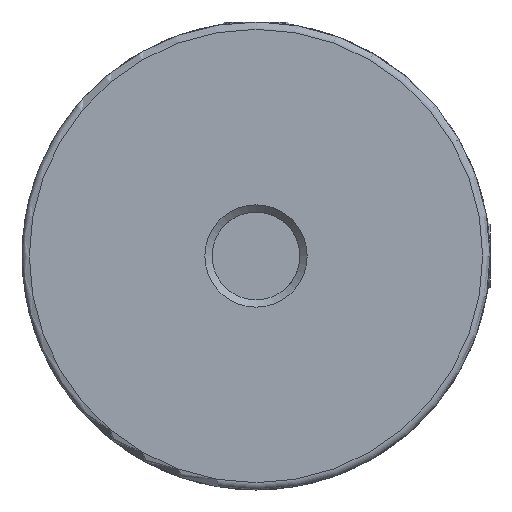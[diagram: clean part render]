
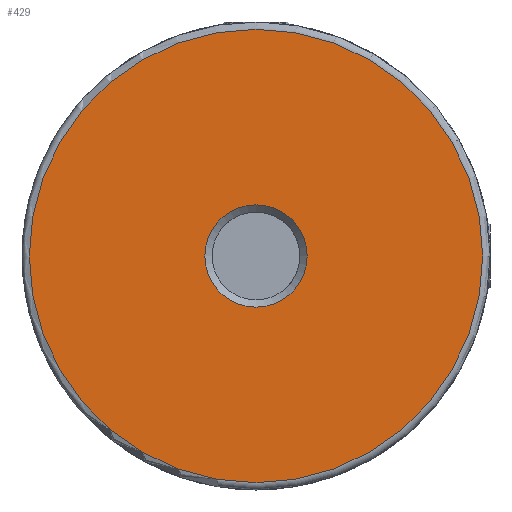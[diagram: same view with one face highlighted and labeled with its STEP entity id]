
A CAD part, left-side view. The second image highlights one B-rep face of the part: STEP entity #429.
In plain terms, the highlighted planar face has unit normal (-1, 0, 0).
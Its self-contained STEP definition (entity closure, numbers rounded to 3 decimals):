
#429 = ADVANCED_FACE( '', ( #896, #897 ), #898, .F. );
#896 = FACE_OUTER_BOUND( '', #1684, .T. );
#897 = FACE_BOUND( '', #1685, .T. );
#898 = PLANE( '', #1686 );
#1684 = EDGE_LOOP( '', ( #2868 ) );
#1685 = EDGE_LOOP( '', ( #2869 ) );
#1686 = AXIS2_PLACEMENT_3D( '', #2870, #2871, #2872 );
#2868 = ORIENTED_EDGE( '', *, *, #3239, .T. );
#2869 = ORIENTED_EDGE( '', *, *, #3210, .T. );
#2870 = CARTESIAN_POINT( '', ( 1.5, 0., 3. ) );
#2871 = DIRECTION( '', ( 1., 0., 0. ) );
#2872 = DIRECTION( '', ( 0., 1., 0. ) );
#3210 = EDGE_CURVE( '', #3826, #3826, #3827, .T. );
#3239 = EDGE_CURVE( '', #3863, #3863, #3864, .T. );
#3826 = VERTEX_POINT( '', #5140 );
#3827 = CIRCLE( '', #5141, 3.5 );
#3863 = VERTEX_POINT( '', #5196 );
#3864 = CIRCLE( '', #5197, 15.5 );
#5140 = CARTESIAN_POINT( '', ( 1.5, 0., -3.5 ) );
#5141 = AXIS2_PLACEMENT_3D( '', #6001, #6002, #6003 );
#5196 = CARTESIAN_POINT( '', ( 1.5, 0., -15.5 ) );
#5197 = AXIS2_PLACEMENT_3D( '', #6030, #6031, #6032 );
#6001 = CARTESIAN_POINT( '', ( 1.5, 0., 0. ) );
#6002 = DIRECTION( '', ( 1., 0., 0. ) );
#6003 = DIRECTION( '', ( 0., 0., -1. ) );
#6030 = CARTESIAN_POINT( '', ( 1.5, 0., 0. ) );
#6031 = DIRECTION( '', ( -1., 0., 0. ) );
#6032 = DIRECTION( '', ( 0., 0., -1. ) );
